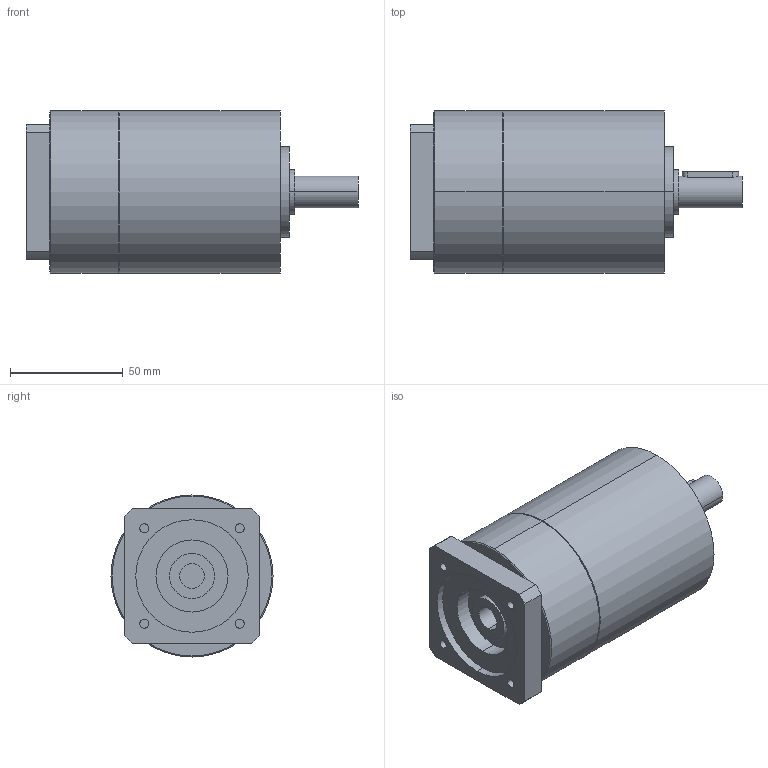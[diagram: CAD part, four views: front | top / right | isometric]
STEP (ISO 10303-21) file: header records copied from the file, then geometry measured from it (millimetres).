
FILE_DESCRIPTION(('CoCreate Modeling STEP Export'),'2;1');
FILE_NAME('GPT75_ig-9-12-16-20-25-28-35-40-50-70-100_14_B14T_11_P18.stp','2014-08-27T13:08:35',(''),(''),'CoCreate Modeling STEP processor for AP214 (Solid Model)','CoCreate Modeling 16.00C 25-Feb-2009 (C) Parametric Technology GmbH','');
FILE_SCHEMA(('AUTOMOTIVE_DESIGN { 1 0 10303 214 1 1 1 1 }'));
Length unit declared in the file: millimetre
Products named in the file (2): GPT75_ig-9-12-16-20-25-28-35-40-50-70-100_14_B14T_11_P18
Assembly tree (1 placements, depth 2):
  GPT75_ig-9-12-16-20-25-28-35-40-50-70-100_14_B14T_11_P18
    GPT75_ig-9-12-16-20-25-28-35-40-50-70-100_14_B14T_11_P18
Bounding box: 147.5 x 72 x 72 mm (x, y, z)
Volume: 449207 mm3; surface area: 40163.9 mm2
Topology: 1 solids, 1 shells, 80 faces, 182 edges, 121 vertices
Faces by surface type: cylinder 42, plane 34, cone 4
Entity records: 2269 total; most frequent: CARTESIAN_POINT 677, ORIENTED_EDGE 364, DIRECTION 268, EDGE_CURVE 182, VERTEX_POINT 121, AXIS2_PLACEMENT_3D 100, EDGE_LOOP 97, FACE_OUTER_BOUND 80
